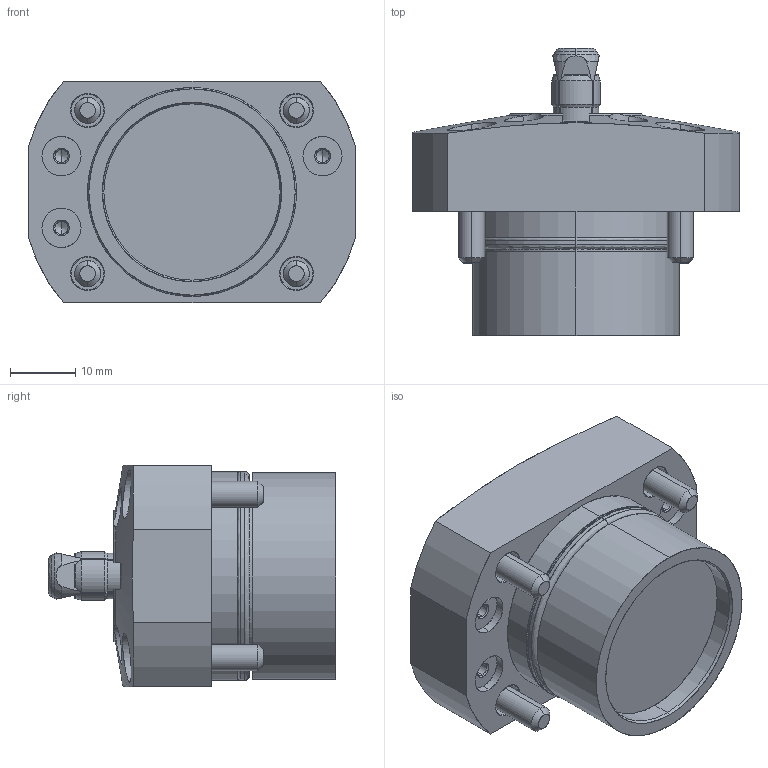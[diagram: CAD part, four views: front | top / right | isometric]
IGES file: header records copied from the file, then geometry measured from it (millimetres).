
Start section: SolidWorks IGES file using analytic representation for surfaces
Global section: file name: L:\電子カタログ-3Ｄ\SFH\ｱｾﾝﾌﾞﾘ\SFH1080_N.IGS; native system: SolidWorks 2010; preprocessor: SolidWorks 2010; author: D214; date: 101104.080544; units: millimetre
Bounding box: 50 x 44 x 34 mm (x, y, z)
Surface area: 15376.2 mm2 (no closed solid volume)
Topology: 0 solids, 0 shells, 482 faces, 6107 edges, 6083 vertices
Faces by surface type: revolution 278, bspline 204
